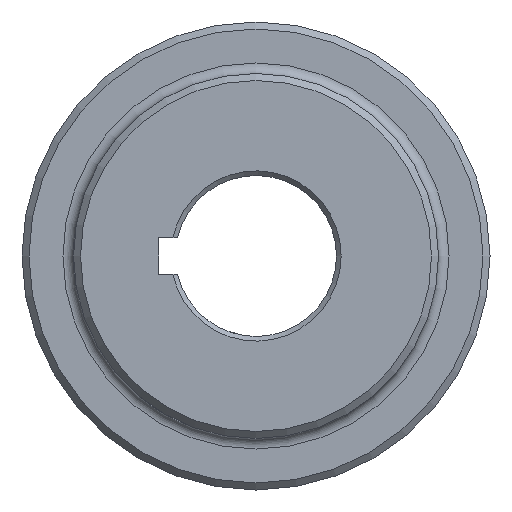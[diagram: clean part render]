
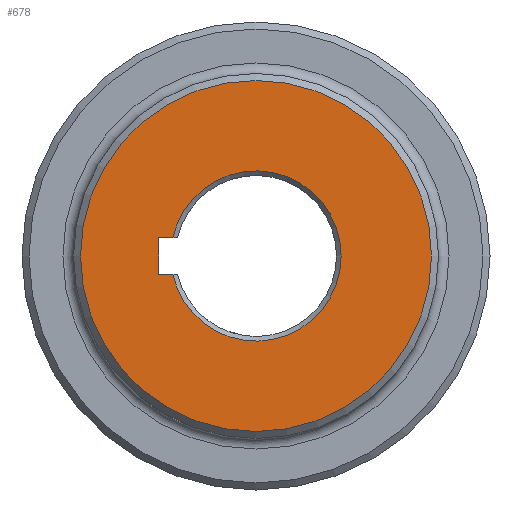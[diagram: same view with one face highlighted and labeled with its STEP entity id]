
A CAD part, left-side view. The second image highlights one B-rep face of the part: STEP entity #678.
In plain terms, the highlighted planar face has unit normal (-1, 0, 0).
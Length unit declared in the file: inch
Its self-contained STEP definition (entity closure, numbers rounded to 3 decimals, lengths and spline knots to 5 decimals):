
#7 = EDGE_CURVE ( 'NONE', #1087, #247, #1730, .T. ) ;
#22 = CARTESIAN_POINT ( 'NONE',  ( 0., 0., 0. ) ) ;
#107 = VECTOR ( 'NONE', #734, 39.37008 ) ;
#118 = EDGE_CURVE ( 'NONE', #944, #1087, #197, .T. ) ;
#123 = PLANE ( 'NONE',  #2161 ) ;
#175 = CARTESIAN_POINT ( 'NONE',  ( 0., 0., -1.5 ) ) ;
#179 = EDGE_CURVE ( 'NONE', #944, #454, #390, .T. ) ;
#197 = LINE ( 'NONE', #517, #107 ) ;
#247 = VERTEX_POINT ( 'NONE', #590 ) ;
#390 = CIRCLE ( 'NONE', #2116, 0.72775 ) ;
#407 = DIRECTION ( 'NONE',  ( 0., 0., -1. ) ) ;
#454 = VERTEX_POINT ( 'NONE', #1301 ) ;
#517 = CARTESIAN_POINT ( 'NONE',  ( 0., 0., 0.156 ) ) ;
#532 = CARTESIAN_POINT ( 'NONE',  ( 0., 0., -0.156 ) ) ;
#564 = EDGE_LOOP ( 'NONE', ( #1152, #1976, #711, #705 ) ) ;
#590 = CARTESIAN_POINT ( 'NONE',  ( 0., 0.83125, -0.156 ) ) ;
#650 = EDGE_CURVE ( 'NONE', #1853, #1853, #1015, .T. ) ;
#678 = ADVANCED_FACE ( 'NONE', ( #1336, #816 ), #123, .F. ) ;
#700 = VECTOR ( 'NONE', #927, 39.37008 ) ;
#705 = ORIENTED_EDGE ( 'NONE', *, *, #7, .F. ) ;
#711 = ORIENTED_EDGE ( 'NONE', *, *, #1248, .F. ) ;
#716 = LINE ( 'NONE', #532, #1155 ) ;
#734 = DIRECTION ( 'NONE',  ( 0., 1., 0. ) ) ;
#783 = CARTESIAN_POINT ( 'NONE',  ( 0., 0., 0. ) ) ;
#816 = FACE_BOUND ( 'NONE', #564, .T. ) ;
#862 = DIRECTION ( 'NONE',  ( 0., 0., -1. ) ) ;
#892 = DIRECTION ( 'NONE',  ( 1., 0., 0. ) ) ;
#927 = DIRECTION ( 'NONE',  ( 0., 0., -1. ) ) ;
#944 = VERTEX_POINT ( 'NONE', #1271 ) ;
#1015 = CIRCLE ( 'NONE', #1929, 1.5 ) ;
#1016 = DIRECTION ( 'NONE',  ( 0., -1., 0. ) ) ;
#1067 = DIRECTION ( 'NONE',  ( 0., 0., -1. ) ) ;
#1073 = DIRECTION ( 'NONE',  ( 1., 0., 0. ) ) ;
#1087 = VERTEX_POINT ( 'NONE', #1474 ) ;
#1092 = EDGE_LOOP ( 'NONE', ( #2215 ) ) ;
#1152 = ORIENTED_EDGE ( 'NONE', *, *, #118, .F. ) ;
#1155 = VECTOR ( 'NONE', #1016, 39.37008 ) ;
#1248 = EDGE_CURVE ( 'NONE', #247, #454, #716, .T. ) ;
#1271 = CARTESIAN_POINT ( 'NONE',  ( 0., 0.71083, 0.156 ) ) ;
#1301 = CARTESIAN_POINT ( 'NONE',  ( 0., 0.71083, -0.156 ) ) ;
#1336 = FACE_OUTER_BOUND ( 'NONE', #1092, .T. ) ;
#1474 = CARTESIAN_POINT ( 'NONE',  ( 0., 0.83125, 0.156 ) ) ;
#1480 = DIRECTION ( 'NONE',  ( -1., 0., 0. ) ) ;
#1513 = CARTESIAN_POINT ( 'NONE',  ( 0., 0., 0. ) ) ;
#1730 = LINE ( 'NONE', #1885, #700 ) ;
#1853 = VERTEX_POINT ( 'NONE', #175 ) ;
#1885 = CARTESIAN_POINT ( 'NONE',  ( 0., 0.83125, -0.156 ) ) ;
#1929 = AXIS2_PLACEMENT_3D ( 'NONE', #783, #1480, #862 ) ;
#1976 = ORIENTED_EDGE ( 'NONE', *, *, #179, .T. ) ;
#2116 = AXIS2_PLACEMENT_3D ( 'NONE', #22, #892, #1067 ) ;
#2161 = AXIS2_PLACEMENT_3D ( 'NONE', #1513, #1073, #407 ) ;
#2215 = ORIENTED_EDGE ( 'NONE', *, *, #650, .T. ) ;
